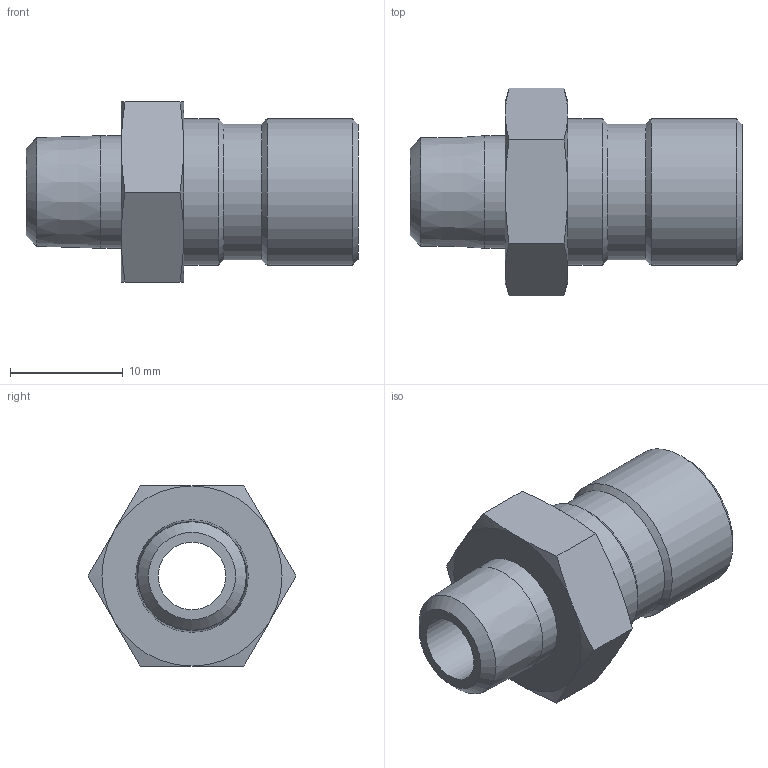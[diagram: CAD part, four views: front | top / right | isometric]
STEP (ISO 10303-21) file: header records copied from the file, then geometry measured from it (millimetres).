
FILE_DESCRIPTION(/* description */ ('STEP AP214'),/* implementation_level */ '2;1');
FILE_NAME(/* name */ 'N9MA',/* time_stamp */ '2024-12-19T09:29:46+01:00',/* author */ ('License CC BY-ND 4.0'),/* organization */ ('CADENAS'),/* preprocessor_version */ 'ST-DEVELOPER v19.3',/* originating_system */ 'PARTsolutions',/* authorisation */ ' ');
FILE_SCHEMA (('AUTOMOTIVE_DESIGN {1 0 10303 214 3 1 1}'));
Length unit declared in the file: millimetre
Products named in the file (1): N9MA
Bounding box: 29.5 x 18.48 x 16 mm (x, y, z)
Volume: 3000.1 mm3; surface area: 2102 mm2
Topology: 1 solids, 1 shells, 32 faces, 65 edges, 37 vertices
Faces by surface type: cone 17, plane 10, cylinder 5
Full cylindrical faces by diameter (mm): 6 x1, 10 x1, 12.04 x1, 13 x2
Entity records: 830 total; most frequent: CARTESIAN_POINT 197, DIRECTION 122, ORIENTED_EDGE 110, AXIS2_PLACEMENT_3D 58, EDGE_CURVE 55, EDGE_LOOP 46, FACE_BOUND 46, VERTEX_POINT 37
